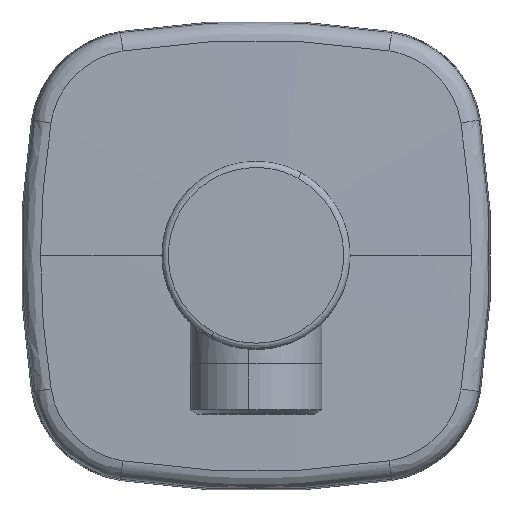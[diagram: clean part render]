
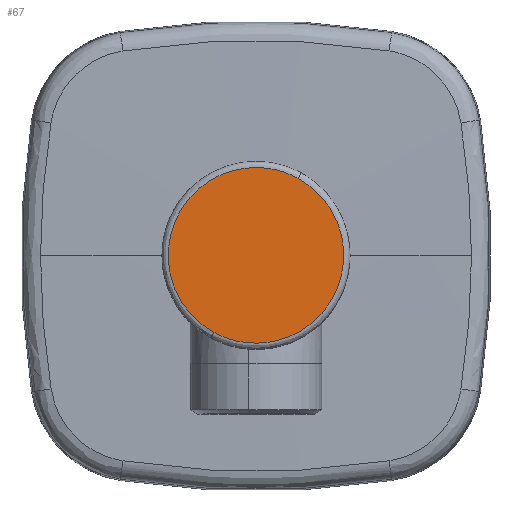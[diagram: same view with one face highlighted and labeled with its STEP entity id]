
A CAD part, top view. The second image highlights one B-rep face of the part: STEP entity #67.
In plain terms, the highlighted planar face has unit normal (0, 0, 1).
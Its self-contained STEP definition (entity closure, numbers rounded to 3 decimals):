
#14 = CARTESIAN_POINT ( 'NONE',  ( -31.284, 1.138, 59.6 ) ) ;
#67 = ADVANCED_FACE ( 'NONE', ( #952 ), #1060, .F. ) ;
#123 = VERTEX_POINT ( 'NONE', #148 ) ;
#148 = CARTESIAN_POINT ( 'NONE',  ( -6.712, -12.286, 59.6 ) ) ;
#159 = CARTESIAN_POINT ( 'NONE',  ( 17.86, -25.71, 59.6 ) ) ;
#228 = CARTESIAN_POINT ( 'NONE',  ( -6.712, -12.286, 59.6 ) ) ;
#243 = VERTEX_POINT ( 'NONE', #486 ) ;
#273 = CARTESIAN_POINT ( 'NONE',  ( -6.712, -12.286, 59.6 ) ) ;
#361 = CARTESIAN_POINT ( 'NONE',  ( 31.284, -1.138, 59.6 ) ) ;
#395 = DIRECTION ( 'NONE',  ( 0., 0., -1. ) ) ;
#447 =( BOUNDED_CURVE ( )  B_SPLINE_CURVE ( 3, ( #1290, #361, #159, #273 ),
 .UNSPECIFIED., .F., .T. ) 
 B_SPLINE_CURVE_WITH_KNOTS ( ( 4, 4 ),
 ( 0., 1. ),
 .UNSPECIFIED. ) 
 CURVE ( )  GEOMETRIC_REPRESENTATION_ITEM ( )  RATIONAL_B_SPLINE_CURVE ( ( 1., 0.333, 0.333, 1. ) ) 
 REPRESENTATION_ITEM ( '' )  );
#456 = EDGE_CURVE ( 'NONE', #243, #123, #447, .T. ) ;
#486 = CARTESIAN_POINT ( 'NONE',  ( 6.712, 12.286, 59.6 ) ) ;
#615 = CARTESIAN_POINT ( 'NONE',  ( -17.86, 25.71, 59.6 ) ) ;
#733 = ORIENTED_EDGE ( 'NONE', *, *, #897, .F. ) ;
#767 =( BOUNDED_CURVE ( )  B_SPLINE_CURVE ( 3, ( #228, #14, #615, #934 ),
 .UNSPECIFIED., .F., .F. ) 
 B_SPLINE_CURVE_WITH_KNOTS ( ( 4, 4 ),
 ( 0., 1. ),
 .UNSPECIFIED. ) 
 CURVE ( )  GEOMETRIC_REPRESENTATION_ITEM ( )  RATIONAL_B_SPLINE_CURVE ( ( 1., 0.333, 0.333, 1. ) ) 
 REPRESENTATION_ITEM ( '' )  );
#886 = EDGE_LOOP ( 'NONE', ( #1043, #733 ) ) ;
#897 = EDGE_CURVE ( 'NONE', #123, #243, #767, .T. ) ;
#910 = CARTESIAN_POINT ( 'NONE',  ( 0., 0., 59.6 ) ) ;
#934 = CARTESIAN_POINT ( 'NONE',  ( 6.712, 12.286, 59.6 ) ) ;
#952 = FACE_OUTER_BOUND ( 'NONE', #886, .T. ) ;
#974 = AXIS2_PLACEMENT_3D ( 'NONE', #910, #395, #1100 ) ;
#1043 = ORIENTED_EDGE ( 'NONE', *, *, #456, .F. ) ;
#1060 = PLANE ( 'NONE',  #974 ) ;
#1100 = DIRECTION ( 'NONE',  ( 0., 1., 0. ) ) ;
#1290 = CARTESIAN_POINT ( 'NONE',  ( 6.712, 12.286, 59.6 ) ) ;
